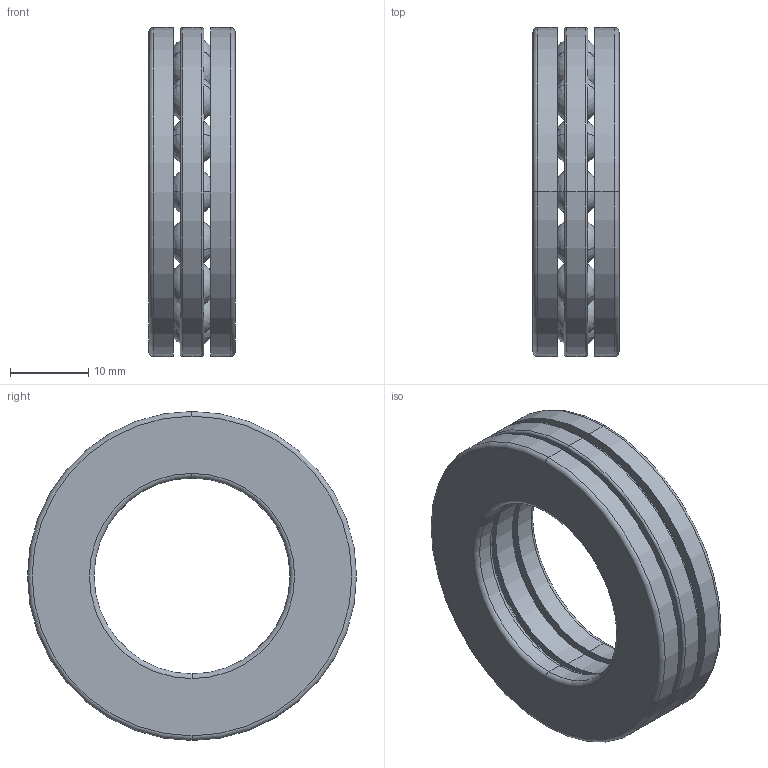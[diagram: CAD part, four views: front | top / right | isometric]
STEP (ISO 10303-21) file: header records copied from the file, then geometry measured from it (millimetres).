
FILE_DESCRIPTION (( 'STEP AP214' ), '1' );
FILE_NAME ('3-220-6804.STEP', '2020-04-09T16:50:58', ( '' ), ( '' ), 'SwSTEP 2.0', 'SolidWorks 2020', '' );
FILE_SCHEMA (( 'AUTOMOTIVE_DESIGN' ));
Length unit declared in the file: millimetre
Products named in the file (5): _51105_PART1_2; _51105_PART2_4; _51105_PART4_8; _51105_PART3_6; 3-220-6804
Assembly tree (19 placements, depth 2):
  3-220-6804
    _51105_PART1_2
    _51105_PART2_4
    _51105_PART3_6
    _51105_PART4_8  x16
Bounding box: 11 x 42 x 42 mm (x, y, z)
Volume: 8084.4 mm3; surface area: 8864 mm2
Topology: 19 solids, 19 shells, 102 faces, 300 edges, 174 vertices
Faces by surface type: cylinder 44, sphere 32, torus 18, plane 8
Entity records: 2632 total; most frequent: CARTESIAN_POINT 503, DIRECTION 454, ORIENTED_EDGE 348, AXIS2_PLACEMENT_3D 205, EDGE_CURVE 174, VERTEX_POINT 112, EDGE_LOOP 112, CIRCLE 111
